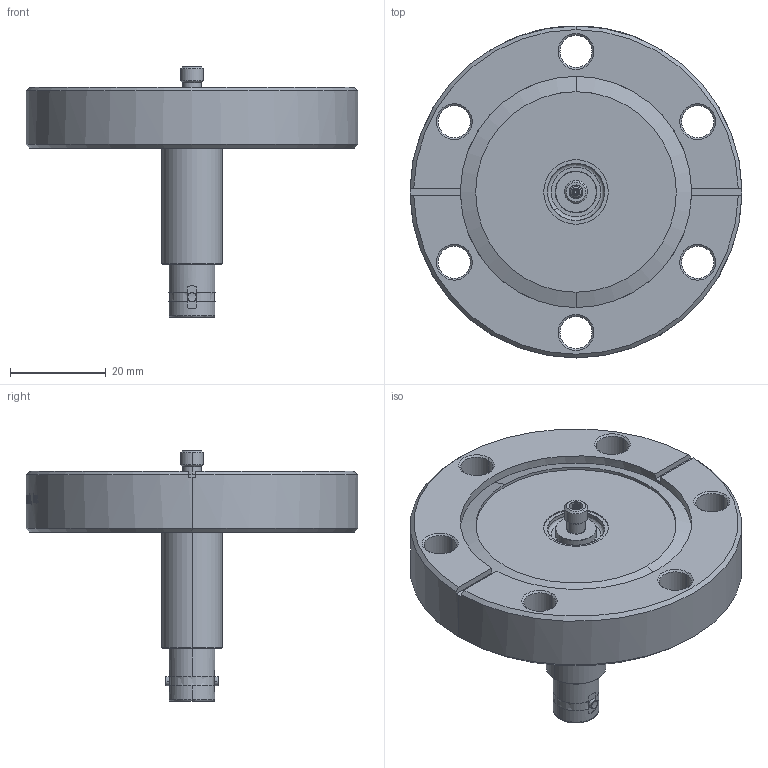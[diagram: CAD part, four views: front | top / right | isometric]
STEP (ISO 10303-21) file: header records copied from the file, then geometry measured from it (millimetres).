
FILE_DESCRIPTION (( 'STEP AP203' ), '1' );
FILE_NAME ('113130.stp', '2018-04-17T22:00:38', ( '' ), ( '' ), 'SwSTEP 2.0', 'SolidWorks 2012', '' );
FILE_SCHEMA (( 'CONFIG_CONTROL_DESIGN' ));
Length unit declared in the file: centimetre
Products named in the file (1): 113130
Bounding box: 69.34 x 69.34 x 52.32 mm (x, y, z)
Volume: 44542.5 mm3; surface area: 15362.7 mm2
Topology: 1 solids, 1 shells, 545 faces, 1432 edges, 930 vertices
Faces by surface type: bspline 177, plane 174, cylinder 113, cone 81
Entity records: 46232 total; most frequent: CARTESIAN_POINT 33888, ORIENTED_EDGE 2856, DIRECTION 2086, EDGE_CURVE 1428, VERTEX_POINT 930, AXIS2_PLACEMENT_3D 767, EDGE_LOOP 602, VECTOR 552
